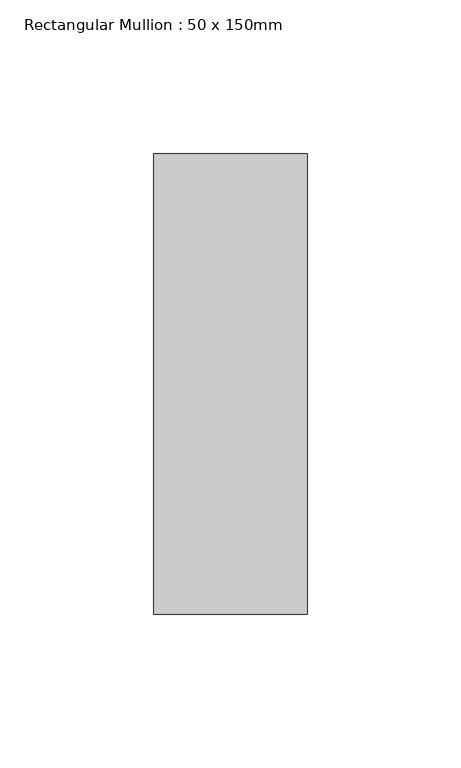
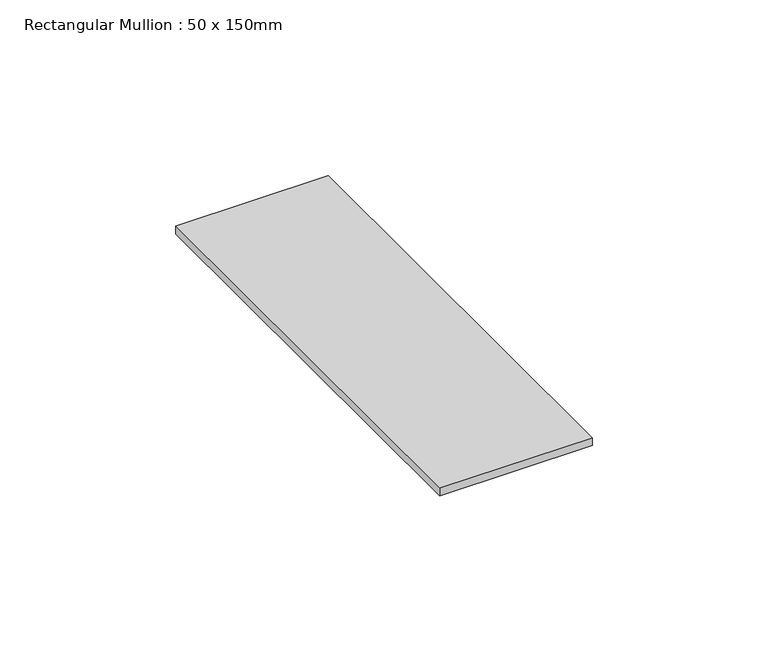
"""IFC4 building model written with IfcOpenShell, lengths in millimetres: member geometry, Rectangular Mullion : 50 x 150mm."""

from ifc_helpers import new_model, si_unit, frame, origin, place, context, project, spatial, polyline, outline, extrude, source, transform, mapped, element, save


def rectangular_mullion_50_x_150mm_09289d73(model_context):
    return source(origin(), model_context, "Body", "SweptSolid", [
        extrude(outline(polyline([(0.0, 75.0), (0.0, -75.0), (-50.0, -75.0), (-50.0, 75.0), (0.0, 75.0)])), frame((0.0, 0.0, -2.7080134), z_axis=(0.0, 0.0, 1.0), x_axis=(1.0, 0.0, 0.0)), (0.0, 0.0, 1.0), 2.7080134),
    ])


if __name__ == "__main__":
    model = new_model("IFC4")
    model_context = context("Model", 3, world=origin())
    ifc_project = project(units=[si_unit("LENGTHUNIT", "METRE", prefix="MILLI")], contexts=[model_context])
    site = spatial("IfcSite", under=ifc_project)
    building = spatial("IfcBuilding", under=site)
    placement = place(None, origin())
    rectangular_mullion_50_x_150mm_shape = rectangular_mullion_50_x_150mm_09289d73(model_context)
    element("IfcMember", 1, ObjectType="Rectangular Mullion : 50 x 150mm", at=placement, inside=building, context=model_context, shape_type="MappedRepresentation", body=[
        mapped(rectangular_mullion_50_x_150mm_shape, transform((0.0, 0.0, 0.0), x_axis=(1.0, 0.0, 0.0), y_axis=(0.0, 1.0, 0.0), z_axis=(0.0, 0.0, 1.0))),
    ])
    save(model, "model.ifc")
